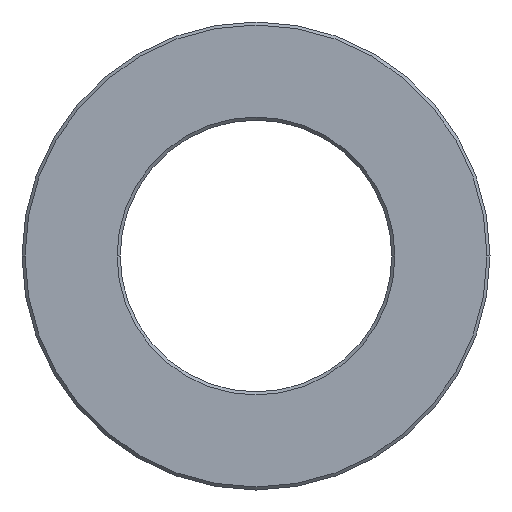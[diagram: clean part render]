
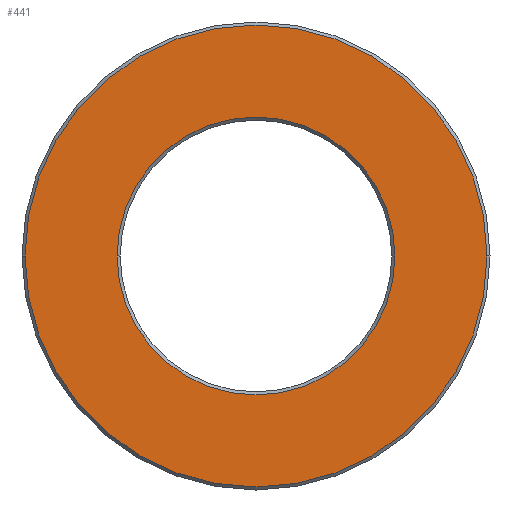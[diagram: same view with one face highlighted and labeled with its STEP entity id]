
A CAD part, left-side view. The second image highlights one B-rep face of the part: STEP entity #441.
In plain terms, the highlighted planar face has unit normal (-1, 0, 0).
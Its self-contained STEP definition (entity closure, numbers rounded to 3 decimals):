
#46 = CARTESIAN_POINT ( 'NONE',  ( -96., 0., 0. ) ) ;
#47 = DIRECTION ( 'NONE',  ( 0., -1., 0. ) ) ;
#50 = DIRECTION ( 'NONE',  ( 1., 0., 0. ) ) ;
#62 = DIRECTION ( 'NONE',  ( 0., -1., 0. ) ) ;
#63 = DIRECTION ( 'NONE',  ( -1., 0., 0. ) ) ;
#64 = CARTESIAN_POINT ( 'NONE',  ( -96., 0., 0. ) ) ;
#74 = CARTESIAN_POINT ( 'NONE',  ( -96., 0., 0. ) ) ;
#129 = CARTESIAN_POINT ( 'NONE',  ( -96., -15.3, 0. ) ) ;
#137 = CARTESIAN_POINT ( 'NONE',  ( -96., -9.2, 0. ) ) ;
#138 = CARTESIAN_POINT ( 'NONE',  ( -96., 9.2, 0. ) ) ;
#151 = CARTESIAN_POINT ( 'NONE',  ( -96., 15.3, 0. ) ) ;
#158 = DIRECTION ( 'NONE',  ( 0., -1., 0. ) ) ;
#159 = DIRECTION ( 'NONE',  ( -1., 0., 0. ) ) ;
#281 = AXIS2_PLACEMENT_3D ( 'NONE', #568, #560, #559 ) ;
#304 = AXIS2_PLACEMENT_3D ( 'NONE', #610, #612, #605 ) ;
#316 = CIRCLE ( 'NONE', #304, 9.2 ) ;
#320 = CIRCLE ( 'NONE', #322, 9.2 ) ;
#322 = AXIS2_PLACEMENT_3D ( 'NONE', #46, #50, #47 ) ;
#330 = CIRCLE ( 'NONE', #332, 15.3 ) ;
#332 = AXIS2_PLACEMENT_3D ( 'NONE', #64, #63, #62 ) ;
#359 = CIRCLE ( 'NONE', #362, 15.3 ) ;
#362 = AXIS2_PLACEMENT_3D ( 'NONE', #74, #159, #158 ) ;
#432 = EDGE_CURVE ( 'NONE', #639, #640, #316, .T. ) ;
#441 = ADVANCED_FACE ( 'NONE', ( #566, #570 ), #569, .T. ) ;
#453 = EDGE_CURVE ( 'NONE', #640, #639, #320, .T. ) ;
#460 = EDGE_CURVE ( 'NONE', #647, #623, #330, .T. ) ;
#484 = EDGE_CURVE ( 'NONE', #623, #647, #359, .T. ) ;
#539 = EDGE_LOOP ( 'NONE', ( #757, #756 ) ) ;
#559 = DIRECTION ( 'NONE',  ( 0., -1., 0. ) ) ;
#560 = DIRECTION ( 'NONE',  ( -1., 0., 0. ) ) ;
#566 = FACE_BOUND ( 'NONE', #709, .T. ) ;
#568 = CARTESIAN_POINT ( 'NONE',  ( -96., 9., 0. ) ) ;
#569 = PLANE ( 'NONE',  #281 ) ;
#570 = FACE_OUTER_BOUND ( 'NONE', #539, .T. ) ;
#605 = DIRECTION ( 'NONE',  ( 0., -1., 0. ) ) ;
#610 = CARTESIAN_POINT ( 'NONE',  ( -96., 0., 0. ) ) ;
#612 = DIRECTION ( 'NONE',  ( 1., 0., 0. ) ) ;
#623 = VERTEX_POINT ( 'NONE', #151 ) ;
#639 = VERTEX_POINT ( 'NONE', #138 ) ;
#640 = VERTEX_POINT ( 'NONE', #137 ) ;
#647 = VERTEX_POINT ( 'NONE', #129 ) ;
#709 = EDGE_LOOP ( 'NONE', ( #741, #740 ) ) ;
#740 = ORIENTED_EDGE ( 'NONE', *, *, #432, .T. ) ;
#741 = ORIENTED_EDGE ( 'NONE', *, *, #453, .T. ) ;
#756 = ORIENTED_EDGE ( 'NONE', *, *, #460, .T. ) ;
#757 = ORIENTED_EDGE ( 'NONE', *, *, #484, .T. ) ;
